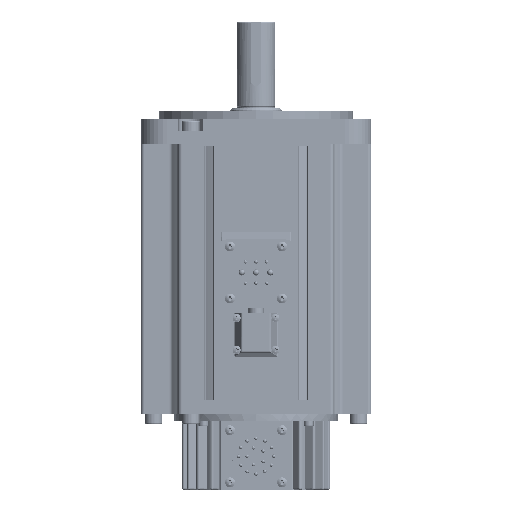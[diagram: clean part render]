
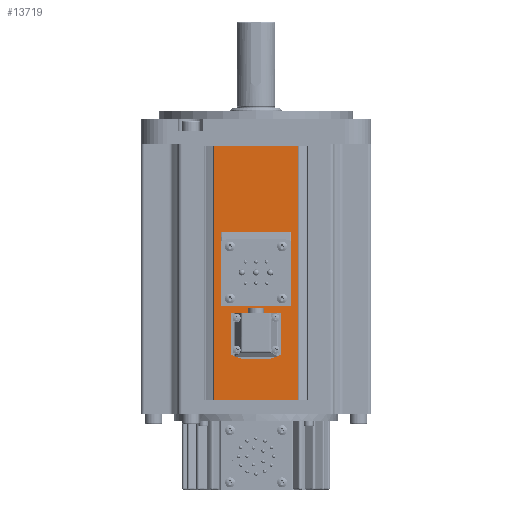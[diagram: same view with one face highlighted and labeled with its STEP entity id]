
A CAD part, left-side view. The second image highlights one B-rep face of the part: STEP entity #13719.
In plain terms, the highlighted planar face has unit normal (-1, 0, 0).
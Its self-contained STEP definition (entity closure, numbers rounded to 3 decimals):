
#9237=DIRECTION('',(0.,0.,1.));
#9238=VECTOR('',#9237,47.);
#9239=CARTESIAN_POINT('',(-65.,0.,-23.5));
#9240=LINE('',#9239,#9238);
#9376=DIRECTION('',(0.,0.,1.));
#9377=VECTOR('',#9376,47.);
#9378=CARTESIAN_POINT('',(-65.,143.,-23.5));
#9379=LINE('',#9378,#9377);
#10042=DIRECTION('',(0.,1.,0.));
#10043=VECTOR('',#10042,143.);
#10044=CARTESIAN_POINT('',(-65.,0.,23.5));
#10045=LINE('',#10044,#10043);
#10046=DIRECTION('',(0.,-1.,0.));
#10047=VECTOR('',#10046,143.);
#10048=CARTESIAN_POINT('',(-65.,143.,-23.5));
#10049=LINE('',#10048,#10047);
#10058=CARTESIAN_POINT('',(-65.,106.,5.5));
#10059=DIRECTION('',(-1.,0.,0.));
#10060=DIRECTION('',(0.,0.,-1.));
#10061=AXIS2_PLACEMENT_3D('',#10058,#10059,#10060);
#10063=CARTESIAN_POINT('',(-65.,106.,5.5));
#10064=DIRECTION('',(-1.,0.,0.));
#10065=DIRECTION('',(0.,0.,1.));
#10066=AXIS2_PLACEMENT_3D('',#10063,#10064,#10065);
#10068=CARTESIAN_POINT('',(-65.,106.,-5.5));
#10069=DIRECTION('',(-1.,0.,0.));
#10070=DIRECTION('',(0.,0.,-1.));
#10071=AXIS2_PLACEMENT_3D('',#10068,#10069,#10070);
#10073=CARTESIAN_POINT('',(-65.,106.,-5.5));
#10074=DIRECTION('',(-1.,0.,0.));
#10075=DIRECTION('',(0.,0.,1.));
#10076=AXIS2_PLACEMENT_3D('',#10073,#10074,#10075);
#10078=CARTESIAN_POINT('',(-65.,76.,0.));
#10079=DIRECTION('',(-1.,0.,0.));
#10080=DIRECTION('',(0.,0.,-1.));
#10081=AXIS2_PLACEMENT_3D('',#10078,#10079,#10080);
#10083=CARTESIAN_POINT('',(-65.,76.,0.));
#10084=DIRECTION('',(-1.,0.,0.));
#10085=DIRECTION('',(0.,0.,1.));
#10086=AXIS2_PLACEMENT_3D('',#10083,#10084,#10085);
#10088=CARTESIAN_POINT('',(-65.,86.,-14.68));
#10089=DIRECTION('',(-1.,0.,0.));
#10090=DIRECTION('',(0.,1.,0.));
#10091=AXIS2_PLACEMENT_3D('',#10088,#10089,#10090);
#10093=CARTESIAN_POINT('',(-65.,86.,-14.68));
#10094=DIRECTION('',(-1.,0.,0.));
#10095=DIRECTION('',(0.,-1.,0.));
#10096=AXIS2_PLACEMENT_3D('',#10093,#10094,#10095);
#10098=CARTESIAN_POINT('',(-65.,56.64,-14.68));
#10099=DIRECTION('',(-1.,0.,0.));
#10100=DIRECTION('',(0.,1.,0.));
#10101=AXIS2_PLACEMENT_3D('',#10098,#10099,#10100);
#10103=CARTESIAN_POINT('',(-65.,56.64,-14.68));
#10104=DIRECTION('',(-1.,0.,0.));
#10105=DIRECTION('',(0.,-1.,0.));
#10106=AXIS2_PLACEMENT_3D('',#10103,#10104,#10105);
#10108=CARTESIAN_POINT('',(-65.,86.,14.68));
#10109=DIRECTION('',(-1.,0.,0.));
#10110=DIRECTION('',(0.,1.,0.));
#10111=AXIS2_PLACEMENT_3D('',#10108,#10109,#10110);
#10113=CARTESIAN_POINT('',(-65.,86.,14.68));
#10114=DIRECTION('',(-1.,0.,0.));
#10115=DIRECTION('',(0.,-1.,0.));
#10116=AXIS2_PLACEMENT_3D('',#10113,#10114,#10115);
#10118=CARTESIAN_POINT('',(-65.,56.64,14.68));
#10119=DIRECTION('',(-1.,0.,0.));
#10120=DIRECTION('',(0.,1.,0.));
#10121=AXIS2_PLACEMENT_3D('',#10118,#10119,#10120);
#10123=CARTESIAN_POINT('',(-65.,56.64,14.68));
#10124=DIRECTION('',(-1.,0.,0.));
#10125=DIRECTION('',(0.,-1.,0.));
#10126=AXIS2_PLACEMENT_3D('',#10123,#10124,#10125);
#10128=CARTESIAN_POINT('',(-65.,65.,9.));
#10129=DIRECTION('',(-1.,0.,0.));
#10130=DIRECTION('',(0.,1.,0.));
#10131=AXIS2_PLACEMENT_3D('',#10128,#10129,#10130);
#10133=CARTESIAN_POINT('',(-65.,65.,9.));
#10134=DIRECTION('',(-1.,0.,0.));
#10135=DIRECTION('',(0.,-1.,0.));
#10136=AXIS2_PLACEMENT_3D('',#10133,#10134,#10135);
#10138=CARTESIAN_POINT('',(-65.,115.,-11.));
#10139=DIRECTION('',(-1.,0.,0.));
#10140=DIRECTION('',(0.,1.,0.));
#10141=AXIS2_PLACEMENT_3D('',#10138,#10139,#10140);
#10143=CARTESIAN_POINT('',(-65.,115.,-11.));
#10144=DIRECTION('',(-1.,0.,0.));
#10145=DIRECTION('',(0.,-1.,0.));
#10146=AXIS2_PLACEMENT_3D('',#10143,#10144,#10145);
#10148=CARTESIAN_POINT('',(-65.,97.,-11.));
#10149=DIRECTION('',(-1.,0.,0.));
#10150=DIRECTION('',(0.,1.,0.));
#10151=AXIS2_PLACEMENT_3D('',#10148,#10149,#10150);
#10153=CARTESIAN_POINT('',(-65.,97.,-11.));
#10154=DIRECTION('',(-1.,0.,0.));
#10155=DIRECTION('',(0.,-1.,0.));
#10156=AXIS2_PLACEMENT_3D('',#10153,#10154,#10155);
#10158=CARTESIAN_POINT('',(-65.,115.,11.));
#10159=DIRECTION('',(-1.,0.,0.));
#10160=DIRECTION('',(0.,1.,0.));
#10161=AXIS2_PLACEMENT_3D('',#10158,#10159,#10160);
#10163=CARTESIAN_POINT('',(-65.,115.,11.));
#10164=DIRECTION('',(-1.,0.,0.));
#10165=DIRECTION('',(0.,-1.,0.));
#10166=AXIS2_PLACEMENT_3D('',#10163,#10164,#10165);
#10168=CARTESIAN_POINT('',(-65.,97.,11.));
#10169=DIRECTION('',(-1.,0.,0.));
#10170=DIRECTION('',(0.,1.,0.));
#10171=AXIS2_PLACEMENT_3D('',#10168,#10169,#10170);
#10173=CARTESIAN_POINT('',(-65.,97.,11.));
#10174=DIRECTION('',(-1.,0.,0.));
#10175=DIRECTION('',(0.,-1.,0.));
#10176=AXIS2_PLACEMENT_3D('',#10173,#10174,#10175);
#12478=CARTESIAN_POINT('',(-65.,143.,23.5));
#12480=VERTEX_POINT('',#12478);
#12484=CARTESIAN_POINT('',(-65.,0.,23.5));
#12485=VERTEX_POINT('',#12484);
#12486=CARTESIAN_POINT('',(-65.,0.,-23.5));
#12488=VERTEX_POINT('',#12486);
#12492=CARTESIAN_POINT('',(-65.,143.,-23.5));
#12493=VERTEX_POINT('',#12492);
#12502=CARTESIAN_POINT('',(-65.,87.25,-14.68));
#12503=CARTESIAN_POINT('',(-65.,84.75,-14.68));
#12504=VERTEX_POINT('',#12502);
#12505=VERTEX_POINT('',#12503);
#12506=CARTESIAN_POINT('',(-65.,57.89,-14.68));
#12507=CARTESIAN_POINT('',(-65.,55.39,-14.68));
#12508=VERTEX_POINT('',#12506);
#12509=VERTEX_POINT('',#12507);
#12510=CARTESIAN_POINT('',(-65.,87.25,14.68));
#12511=CARTESIAN_POINT('',(-65.,84.75,14.68));
#12512=VERTEX_POINT('',#12510);
#12513=VERTEX_POINT('',#12511);
#12514=CARTESIAN_POINT('',(-65.,57.89,14.68));
#12515=CARTESIAN_POINT('',(-65.,55.39,14.68));
#12516=VERTEX_POINT('',#12514);
#12517=VERTEX_POINT('',#12515);
#12518=CARTESIAN_POINT('',(-65.,66.25,9.));
#12519=CARTESIAN_POINT('',(-65.,63.75,9.));
#12520=VERTEX_POINT('',#12518);
#12521=VERTEX_POINT('',#12519);
#12522=CARTESIAN_POINT('',(-65.,106.,2.));
#12523=CARTESIAN_POINT('',(-65.,106.,9.));
#12524=VERTEX_POINT('',#12522);
#12525=VERTEX_POINT('',#12523);
#12526=CARTESIAN_POINT('',(-65.,106.,-9.));
#12527=CARTESIAN_POINT('',(-65.,106.,-2.));
#12528=VERTEX_POINT('',#12526);
#12529=VERTEX_POINT('',#12527);
#12530=CARTESIAN_POINT('',(-65.,76.,-7.5));
#12531=CARTESIAN_POINT('',(-65.,76.,7.5));
#12532=VERTEX_POINT('',#12530);
#12533=VERTEX_POINT('',#12531);
#12534=CARTESIAN_POINT('',(-65.,116.025,-11.));
#12535=CARTESIAN_POINT('',(-65.,113.975,-11.));
#12536=VERTEX_POINT('',#12534);
#12537=VERTEX_POINT('',#12535);
#12538=CARTESIAN_POINT('',(-65.,98.025,-11.));
#12539=CARTESIAN_POINT('',(-65.,95.975,-11.));
#12540=VERTEX_POINT('',#12538);
#12541=VERTEX_POINT('',#12539);
#12542=CARTESIAN_POINT('',(-65.,116.025,11.));
#12543=CARTESIAN_POINT('',(-65.,113.975,11.));
#12544=VERTEX_POINT('',#12542);
#12545=VERTEX_POINT('',#12543);
#12546=CARTESIAN_POINT('',(-65.,98.025,11.));
#12547=CARTESIAN_POINT('',(-65.,95.975,11.));
#12548=VERTEX_POINT('',#12546);
#12549=VERTEX_POINT('',#12547);
#13635=CARTESIAN_POINT('',(-65.,0.,-43.9));
#13636=DIRECTION('',(-1.,0.,0.));
#13637=DIRECTION('',(0.,0.,1.));
#13638=AXIS2_PLACEMENT_3D('',#13635,#13636,#13637);
#13639=PLANE('',#13638);
#13640=ORIENTED_EDGE('',*,*,#13043,.F.);
#13641=ORIENTED_EDGE('',*,*,#12926,.F.);
#13643=ORIENTED_EDGE('',*,*,#13642,.F.);
#13644=ORIENTED_EDGE('',*,*,#13060,.T.);
#13645=EDGE_LOOP('',(#13640,#13641,#13643,#13644));
#13646=FACE_OUTER_BOUND('',#13645,.F.);
#13648=ORIENTED_EDGE('',*,*,#13647,.T.);
#13650=ORIENTED_EDGE('',*,*,#13649,.T.);
#13651=EDGE_LOOP('',(#13648,#13650));
#13652=FACE_BOUND('',#13651,.F.);
#13654=ORIENTED_EDGE('',*,*,#13653,.T.);
#13656=ORIENTED_EDGE('',*,*,#13655,.T.);
#13657=EDGE_LOOP('',(#13654,#13656));
#13658=FACE_BOUND('',#13657,.F.);
#13660=ORIENTED_EDGE('',*,*,#13659,.T.);
#13662=ORIENTED_EDGE('',*,*,#13661,.T.);
#13663=EDGE_LOOP('',(#13660,#13662));
#13664=FACE_BOUND('',#13663,.F.);
#13666=ORIENTED_EDGE('',*,*,#13665,.T.);
#13668=ORIENTED_EDGE('',*,*,#13667,.T.);
#13669=EDGE_LOOP('',(#13666,#13668));
#13670=FACE_BOUND('',#13669,.F.);
#13672=ORIENTED_EDGE('',*,*,#13671,.T.);
#13674=ORIENTED_EDGE('',*,*,#13673,.T.);
#13675=EDGE_LOOP('',(#13672,#13674));
#13676=FACE_BOUND('',#13675,.F.);
#13678=ORIENTED_EDGE('',*,*,#13677,.T.);
#13680=ORIENTED_EDGE('',*,*,#13679,.T.);
#13681=EDGE_LOOP('',(#13678,#13680));
#13682=FACE_BOUND('',#13681,.F.);
#13684=ORIENTED_EDGE('',*,*,#13683,.T.);
#13686=ORIENTED_EDGE('',*,*,#13685,.T.);
#13687=EDGE_LOOP('',(#13684,#13686));
#13688=FACE_BOUND('',#13687,.F.);
#13690=ORIENTED_EDGE('',*,*,#13689,.T.);
#13692=ORIENTED_EDGE('',*,*,#13691,.T.);
#13693=EDGE_LOOP('',(#13690,#13692));
#13694=FACE_BOUND('',#13693,.F.);
#13696=ORIENTED_EDGE('',*,*,#13695,.T.);
#13698=ORIENTED_EDGE('',*,*,#13697,.T.);
#13699=EDGE_LOOP('',(#13696,#13698));
#13700=FACE_BOUND('',#13699,.F.);
#13702=ORIENTED_EDGE('',*,*,#13701,.T.);
#13704=ORIENTED_EDGE('',*,*,#13703,.T.);
#13705=EDGE_LOOP('',(#13702,#13704));
#13706=FACE_BOUND('',#13705,.F.);
#13708=ORIENTED_EDGE('',*,*,#13707,.T.);
#13710=ORIENTED_EDGE('',*,*,#13709,.T.);
#13711=EDGE_LOOP('',(#13708,#13710));
#13712=FACE_BOUND('',#13711,.F.);
#13714=ORIENTED_EDGE('',*,*,#13713,.T.);
#13716=ORIENTED_EDGE('',*,*,#13715,.T.);
#13717=EDGE_LOOP('',(#13714,#13716));
#13718=FACE_BOUND('',#13717,.F.);
#13719=ADVANCED_FACE('',(#13646,#13652,#13658,#13664,#13670,#13676,#13682,
#13688,#13694,#13700,#13706,#13712,#13718),#13639,.T.);
#10062=CIRCLE('',#10061,3.5);
#10067=CIRCLE('',#10066,3.5);
#10072=CIRCLE('',#10071,3.5);
#10077=CIRCLE('',#10076,3.5);
#10082=CIRCLE('',#10081,7.5);
#10087=CIRCLE('',#10086,7.5);
#10092=CIRCLE('',#10091,1.25);
#10097=CIRCLE('',#10096,1.25);
#10102=CIRCLE('',#10101,1.25);
#10107=CIRCLE('',#10106,1.25);
#10112=CIRCLE('',#10111,1.25);
#10117=CIRCLE('',#10116,1.25);
#10122=CIRCLE('',#10121,1.25);
#10127=CIRCLE('',#10126,1.25);
#10132=CIRCLE('',#10131,1.25);
#10137=CIRCLE('',#10136,1.25);
#10142=CIRCLE('',#10141,1.025);
#10147=CIRCLE('',#10146,1.025);
#10152=CIRCLE('',#10151,1.025);
#10157=CIRCLE('',#10156,1.025);
#10162=CIRCLE('',#10161,1.025);
#10167=CIRCLE('',#10166,1.025);
#10172=CIRCLE('',#10171,1.025);
#10177=CIRCLE('',#10176,1.025);
#12926=EDGE_CURVE('',#12488,#12485,#9240,.T.);
#13043=EDGE_CURVE('',#12485,#12480,#10045,.T.);
#13060=EDGE_CURVE('',#12493,#12480,#9379,.T.);
#13642=EDGE_CURVE('',#12493,#12488,#10049,.T.);
#13647=EDGE_CURVE('',#12524,#12525,#10062,.T.);
#13649=EDGE_CURVE('',#12525,#12524,#10067,.T.);
#13653=EDGE_CURVE('',#12528,#12529,#10072,.T.);
#13655=EDGE_CURVE('',#12529,#12528,#10077,.T.);
#13659=EDGE_CURVE('',#12532,#12533,#10082,.T.);
#13661=EDGE_CURVE('',#12533,#12532,#10087,.T.);
#13665=EDGE_CURVE('',#12504,#12505,#10092,.T.);
#13667=EDGE_CURVE('',#12505,#12504,#10097,.T.);
#13671=EDGE_CURVE('',#12508,#12509,#10102,.T.);
#13673=EDGE_CURVE('',#12509,#12508,#10107,.T.);
#13677=EDGE_CURVE('',#12512,#12513,#10112,.T.);
#13679=EDGE_CURVE('',#12513,#12512,#10117,.T.);
#13683=EDGE_CURVE('',#12516,#12517,#10122,.T.);
#13685=EDGE_CURVE('',#12517,#12516,#10127,.T.);
#13689=EDGE_CURVE('',#12520,#12521,#10132,.T.);
#13691=EDGE_CURVE('',#12521,#12520,#10137,.T.);
#13695=EDGE_CURVE('',#12536,#12537,#10142,.T.);
#13697=EDGE_CURVE('',#12537,#12536,#10147,.T.);
#13701=EDGE_CURVE('',#12540,#12541,#10152,.T.);
#13703=EDGE_CURVE('',#12541,#12540,#10157,.T.);
#13707=EDGE_CURVE('',#12544,#12545,#10162,.T.);
#13709=EDGE_CURVE('',#12545,#12544,#10167,.T.);
#13713=EDGE_CURVE('',#12548,#12549,#10172,.T.);
#13715=EDGE_CURVE('',#12549,#12548,#10177,.T.);
